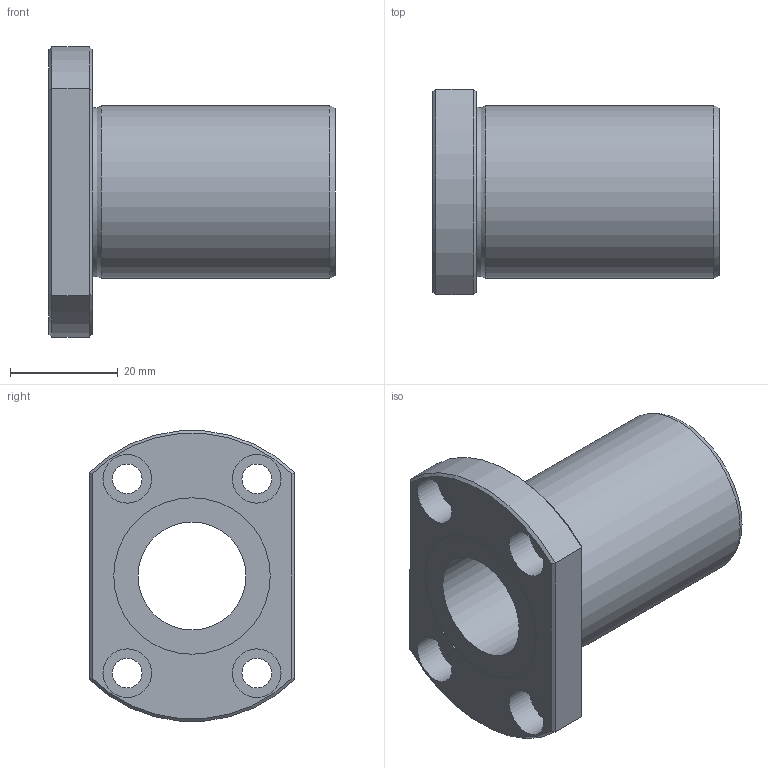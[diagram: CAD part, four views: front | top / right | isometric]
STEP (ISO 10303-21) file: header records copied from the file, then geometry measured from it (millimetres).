
FILE_DESCRIPTION((''),'2;1');
FILE_NAME('D:\製品 (図面)\カタログ用3D\メンテナンスフリー関連\STEP形式\LFT-MF\LFT20MF.stp','2010-06-01T16:08:15',('Tsuchiya'),(''),'Autodesk Inventor 10','Autodesk Inventor 10','');
FILE_SCHEMA(('AUTOMOTIVE_DESIGN { 1 0 10303 214 1 1 1 1 }'));
Length unit declared in the file: millimetre
Products named in the file (1): LFT20MF
Bounding box: 53 x 38 x 53.8 mm (x, y, z)
Volume: 32689.2 mm3; surface area: 12748.2 mm2
Topology: 1 solids, 1 shells, 35 faces, 68 edges, 42 vertices
Faces by surface type: plane 15, cylinder 14, cone 4, torus 1, bspline 1
Full cylindrical faces by diameter (mm): 5.5 x4, 9 x4, 20 x1, 29 x2, 32 x1
Entity records: 935 total; most frequent: CARTESIAN_POINT 218, DIRECTION 150, ORIENTED_EDGE 108, AXIS2_PLACEMENT_3D 69, EDGE_LOOP 66, EDGE_CURVE 54, VERTEX_POINT 42, FACE_OUTER_BOUND 35
